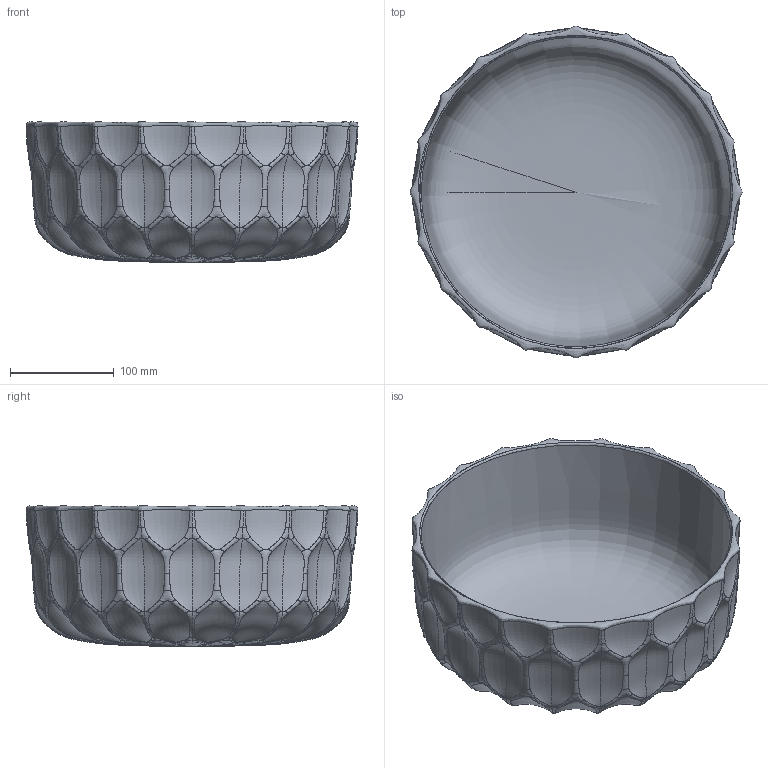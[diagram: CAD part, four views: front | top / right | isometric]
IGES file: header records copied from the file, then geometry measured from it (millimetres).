
Global section: file name: D:\3ddFactory\3D_Kartell\da controllare_3dd\Tavolo urquiola\1499\Jellies Family_3d_Patricia Urquiola_Kartell.igs; native system: Rhinoceros ( Mar 10 2014 ); preprocessor: Trout Lake IGES 012 Mar 10 2014; date: 180210.103740; units: millimetre
Bounding box: 320.17 x 320.03 x 135.35 mm (x, y, z)
Surface area: 358556.6 mm2 (no closed solid volume)
Topology: 0 solids, 0 shells, 645 faces, 23063 edges, 23059 vertices
Faces by surface type: bspline 645
